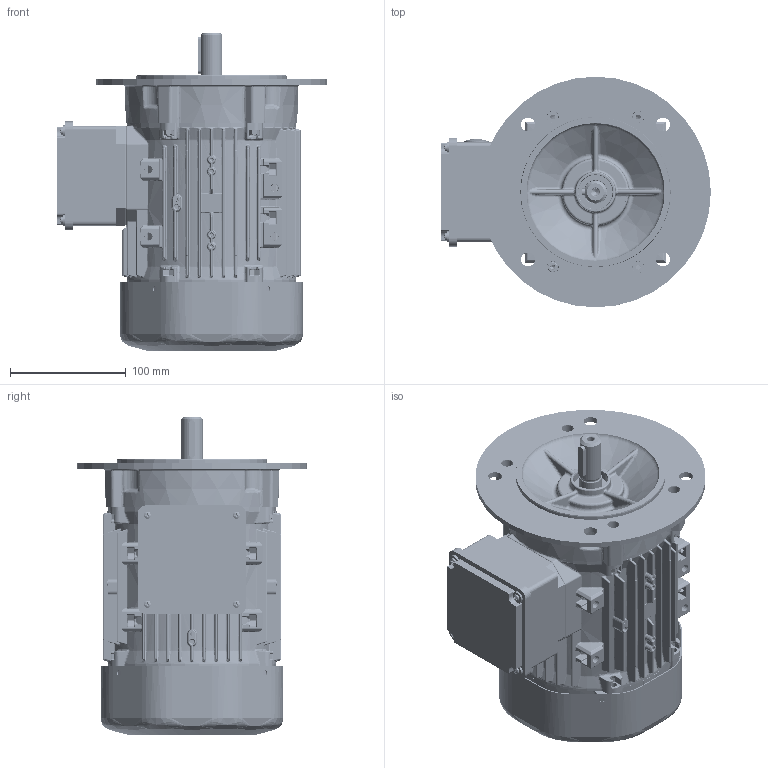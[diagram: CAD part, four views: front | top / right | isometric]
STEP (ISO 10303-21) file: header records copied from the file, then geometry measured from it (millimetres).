
FILE_DESCRIPTION(/* description */ (''),/* implementation_level */ '2;1');
FILE_NAME(/* name */ 'OUTLOOK VIEW QH80 FA B5 FF165 SPL.stp',/* time_stamp */ '2021-09-21T12:31:16+03:00',/* author */ (''),/* organization */ (''),/* preprocessor_version */ 'ST-DEVELOPER v16',/* originating_system */ 'SIEMENS PLM Software NX 11.0',/* authorisation */ '');
FILE_SCHEMA (('AUTOMOTIVE_DESIGN { 1 0 10303 214 3 1 1 1 }'));
Products named in the file (1): 260652D491E0rw6n
Bounding box: 233.25 x 199.5 x 275 mm (x, y, z)
Volume: 2553914.1 mm3; surface area: 1032658 mm2
Topology: 46 solids, 50 shells, 10953 faces, 26563 edges, 15195 vertices
Faces by surface type: bspline 3633, cylinder 2993, plane 2195, sphere 773, torus 696, cone 644, extrusion 19
Full cylindrical faces by diameter (mm): 0.1 x2, 3.3 x5, 3.5 x4, 3.985 x3, 4 x4, 4.2 x1, 4.22 x3, 4.5 x4, 5 x5, 5.5 x4, 6 x1, 6.4 x1, 6.6 x1, 8 x1, 8.5 x1, 10 x4, 12 x4, 18.38 x2, 18.4 x1, 19 x3, 19.4 x2, 20 x6, 20.2 x2, 20.5 x1, 25 x2, 28.8 x8, 30 x3, 38.45 x4, 40.59 x8, 47 x6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
Entity records: 444250 total; most frequent: CARTESIAN_POINT 170601, ORIENTED_EDGE 50692, DIRECTION 44941, EDGE_CURVE 25346, AXIS2_PLACEMENT_3D 18817, VERTEX_POINT 15006, EDGE_LOOP 11942, ADVANCED_FACE 10949
